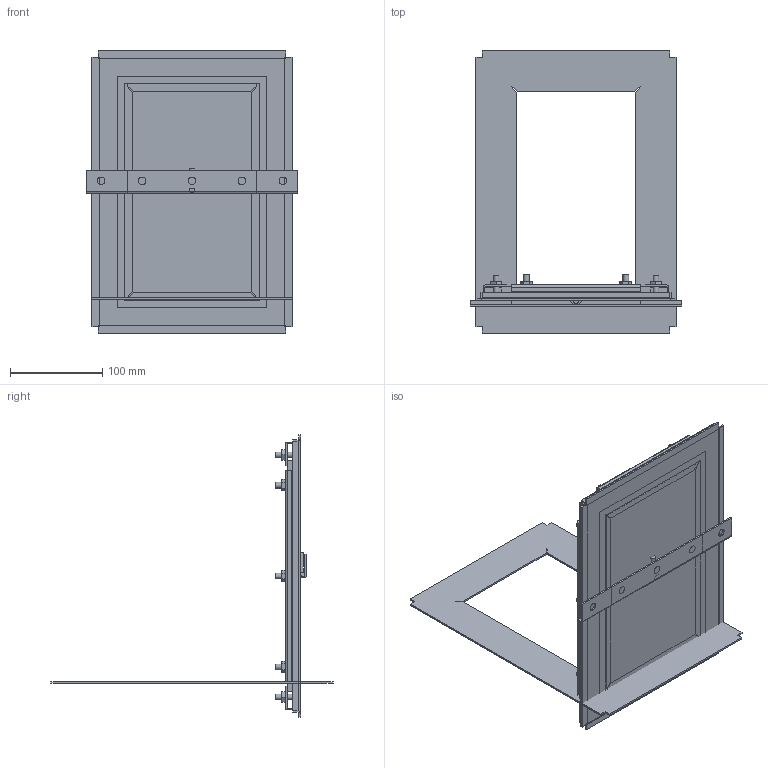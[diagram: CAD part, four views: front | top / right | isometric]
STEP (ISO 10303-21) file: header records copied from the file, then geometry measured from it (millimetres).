
FILE_DESCRIPTION( ( 'Unknown' ), '1' );
FILE_NAME( 'C:/temp/asm/1481WN40905.stp', 'Unknown', ( 'Unknown' ), ( 'Unknown' ), 'PSStep 10.0', 'Unknown', ' ' );
FILE_SCHEMA( ( 'automotive_design' ) );
Length unit declared in the file: millimetre
Products named in the file (23): Assem1; STD21879; STD21879-oa0; STD21879-oa1; STD21879-oa2; STD21879-oa3; STD21879-oa4; STD21879-oa5; STD21879-oa6; STD21879-oa7; STD21879-oa8; NTS165305; NTS165305-oa9; NTS165305-oa10; NTS165305-oa11; NTS165305-oa12; NTS165305-oa13; NTS165305-oa14; COM55610-2; COM55618-2; COM55611-1; COM55611-4
Bounding box: 228.6 x 305.44 x 305.44 mm (x, y, z)
Volume: 737366.4 mm3; surface area: 579771.8 mm2
Topology: 47 solids, 49 shells, 746 faces, 1620 edges, 992 vertices
Faces by surface type: plane 410, cone 204, cylinder 116, bspline 16
Full cylindrical faces by diameter (mm): 6.35 x37, 7.938 x20, 8.331 x15
Entity records: 9783 total; most frequent: CARTESIAN_POINT 2345, DIRECTION 1365, ORIENTED_EDGE 1358, EDGE_CURVE 679, AXIS2_PLACEMENT_3D 521, VERTEX_POINT 453, EDGE_LOOP 416, FACE_OUTER_BOUND 361
